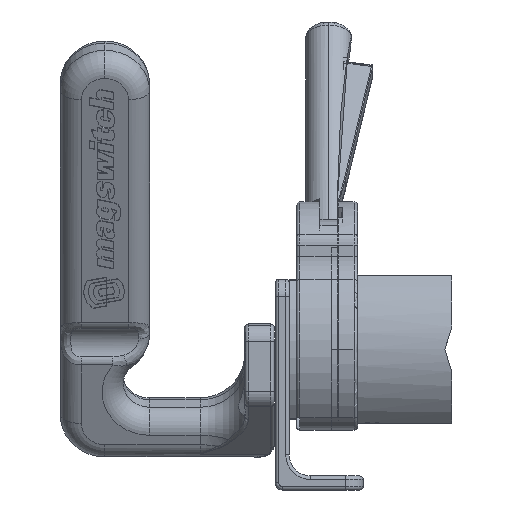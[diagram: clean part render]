
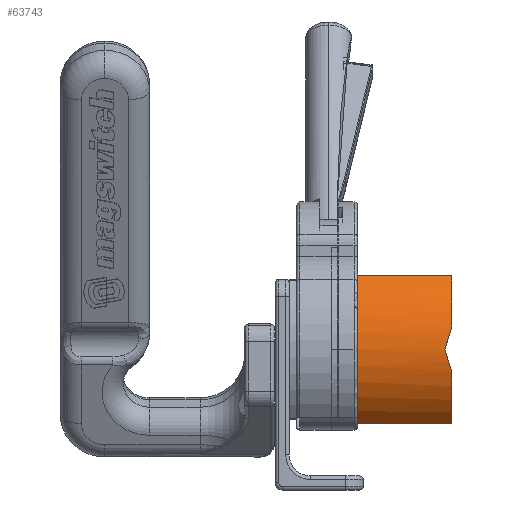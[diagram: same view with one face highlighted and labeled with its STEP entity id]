
A CAD part, left-side view. The second image highlights one B-rep face of the part: STEP entity #63743.
In plain terms, the highlighted cylindrical face has radius 28 mm (diameter 56 mm), a partial arc.
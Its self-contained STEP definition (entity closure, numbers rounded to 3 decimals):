
#195 = DIRECTION ( 'NONE',  ( 0., -1., 0. ) ) ;
#711 = DIRECTION ( 'NONE',  ( -1., 0., 0. ) ) ;
#4979 = CARTESIAN_POINT ( 'NONE',  ( -260.281, -44.2, 5. ) ) ;
#5078 = EDGE_CURVE ( 'NONE', #46462, #21395, #49345, .T. ) ;
#5330 = CARTESIAN_POINT ( 'NONE',  ( -260.038, -45.544, 9.261 ) ) ;
#10847 = CARTESIAN_POINT ( 'NONE',  ( -260.281, -44.874, 7.138 ) ) ;
#10949 = ORIENTED_EDGE ( 'NONE', *, *, #11786, .T. ) ;
#11786 = EDGE_CURVE ( 'NONE', #58932, #40633, #60067, .T. ) ;
#11916 = VECTOR ( 'NONE', #23569, 1000. ) ;
#12083 = ORIENTED_EDGE ( 'NONE', *, *, #12408, .F. ) ;
#12293 = CARTESIAN_POINT ( 'NONE',  ( -232.281, -46.2, 5. ) ) ;
#12320 = CIRCLE ( 'NONE', #71491, 28. ) ;
#12408 = EDGE_CURVE ( 'NONE', #65452, #49084, #53095, .T. ) ;
#15332 = ORIENTED_EDGE ( 'NONE', *, *, #63875, .T. ) ;
#17749 = EDGE_CURVE ( 'NONE', #65452, #69672, #27256, .T. ) ;
#18123 = DIRECTION ( 'NONE',  ( 1., 0., 0. ) ) ;
#19283 = AXIS2_PLACEMENT_3D ( 'NONE', #69929, #35254, #711 ) ;
#19403 = DIRECTION ( 'NONE',  ( 0., -1., 0. ) ) ;
#21395 = VERTEX_POINT ( 'NONE', #27555 ) ;
#23569 = DIRECTION ( 'NONE',  ( 0., 1., 0. ) ) ;
#24519 = CARTESIAN_POINT ( 'NONE',  ( -260.038, -45.544, 0.739 ) ) ;
#25303 = ORIENTED_EDGE ( 'NONE', *, *, #17749, .T. ) ;
#26037 = AXIS2_PLACEMENT_3D ( 'NONE', #38155, #61425, #67252 ) ;
#27256 = LINE ( 'NONE', #52442, #11916 ) ;
#27299 = AXIS2_PLACEMENT_3D ( 'NONE', #34740, #195, #40574 ) ;
#27555 = CARTESIAN_POINT ( 'NONE',  ( -250.802, -46.2, -16. ) ) ;
#28165 = CYLINDRICAL_SURFACE ( 'NONE', #26037, 28. ) ;
#28254 = CARTESIAN_POINT ( 'NONE',  ( -260.281, -44.2, 5. ) ) ;
#30332 = CARTESIAN_POINT ( 'NONE',  ( -260.281, -44.2, 5. ) ) ;
#32303 = CARTESIAN_POINT ( 'NONE',  ( -250.802, -19.5, 26. ) ) ;
#33019 = ORIENTED_EDGE ( 'NONE', *, *, #42623, .F. ) ;
#33897 = VECTOR ( 'NONE', #19403, 1000. ) ;
#34740 = CARTESIAN_POINT ( 'NONE',  ( -232.281, -46.2, 5. ) ) ;
#35254 = DIRECTION ( 'NONE',  ( 0., -1., 0. ) ) ;
#37839 = ORIENTED_EDGE ( 'NONE', *, *, #5078, .T. ) ;
#38155 = CARTESIAN_POINT ( 'NONE',  ( -232.281, -19.4, 5. ) ) ;
#38892 = CARTESIAN_POINT ( 'NONE',  ( -259.553, -46.2, 11.343 ) ) ;
#40574 = DIRECTION ( 'NONE',  ( 1., 0., 0. ) ) ;
#40633 = VERTEX_POINT ( 'NONE', #4979 ) ;
#41468 = CARTESIAN_POINT ( 'NONE',  ( -259.553, -46.2, -1.343 ) ) ;
#42623 = EDGE_CURVE ( 'NONE', #58932, #21395, #12320, .T. ) ;
#42690 = CARTESIAN_POINT ( 'NONE',  ( -250.802, -19.4, -16. ) ) ;
#45770 = CARTESIAN_POINT ( 'NONE',  ( -259.553, -46.2, 11.343 ) ) ;
#46462 = VERTEX_POINT ( 'NONE', #66518 ) ;
#48232 = EDGE_CURVE ( 'NONE', #69672, #46462, #73369, .T. ) ;
#48347 = EDGE_LOOP ( 'NONE', ( #25303, #66750, #37839, #33019, #10949, #15332, #12083 ) ) ;
#49084 = VERTEX_POINT ( 'NONE', #38892 ) ;
#49345 = LINE ( 'NONE', #42690, #33897 ) ;
#52442 = CARTESIAN_POINT ( 'NONE',  ( -250.802, -19.4, 26. ) ) ;
#52790 = DIRECTION ( 'NONE',  ( 0., -1., 0. ) ) ;
#53095 = CIRCLE ( 'NONE', #27299, 28. ) ;
#58932 = VERTEX_POINT ( 'NONE', #41468 ) ;
#59154 =( BOUNDED_CURVE ( )  B_SPLINE_CURVE ( 3, ( #28254, #10847, #5330, #45770 ),
 .UNSPECIFIED., .F., .T. ) 
 B_SPLINE_CURVE_WITH_KNOTS ( ( 4, 4 ),
 ( 4.712, 4.941 ),
 .UNSPECIFIED. ) 
 CURVE ( )  GEOMETRIC_REPRESENTATION_ITEM ( )  RATIONAL_B_SPLINE_CURVE ( ( 1., 0.996, 0.996, 1. ) ) 
 REPRESENTATION_ITEM ( '' )  );
#60067 =( BOUNDED_CURVE ( )  B_SPLINE_CURVE ( 3, ( #64999, #24519, #70578, #30332 ),
 .UNSPECIFIED., .F., .F. ) 
 B_SPLINE_CURVE_WITH_KNOTS ( ( 4, 4 ),
 ( 1.342, 1.571 ),
 .UNSPECIFIED. ) 
 CURVE ( )  GEOMETRIC_REPRESENTATION_ITEM ( )  RATIONAL_B_SPLINE_CURVE ( ( 1., 0.996, 0.996, 1. ) ) 
 REPRESENTATION_ITEM ( '' )  );
#60776 = FACE_OUTER_BOUND ( 'NONE', #48347, .T. ) ;
#61425 = DIRECTION ( 'NONE',  ( 0., -1., 0. ) ) ;
#62383 = CARTESIAN_POINT ( 'NONE',  ( -250.802, -46.2, 26. ) ) ;
#63743 = ADVANCED_FACE ( 'NONE', ( #60776 ), #28165, .T. ) ;
#63875 = EDGE_CURVE ( 'NONE', #40633, #49084, #59154, .T. ) ;
#64999 = CARTESIAN_POINT ( 'NONE',  ( -259.553, -46.2, -1.343 ) ) ;
#65452 = VERTEX_POINT ( 'NONE', #62383 ) ;
#66518 = CARTESIAN_POINT ( 'NONE',  ( -250.802, -19.5, -16. ) ) ;
#66750 = ORIENTED_EDGE ( 'NONE', *, *, #48232, .T. ) ;
#67252 = DIRECTION ( 'NONE',  ( 1., 0., 0. ) ) ;
#69672 = VERTEX_POINT ( 'NONE', #32303 ) ;
#69929 = CARTESIAN_POINT ( 'NONE',  ( -232.281, -19.5, 5. ) ) ;
#70578 = CARTESIAN_POINT ( 'NONE',  ( -260.281, -44.874, 2.862 ) ) ;
#71491 = AXIS2_PLACEMENT_3D ( 'NONE', #12293, #52790, #18123 ) ;
#73369 = CIRCLE ( 'NONE', #19283, 28. ) ;
